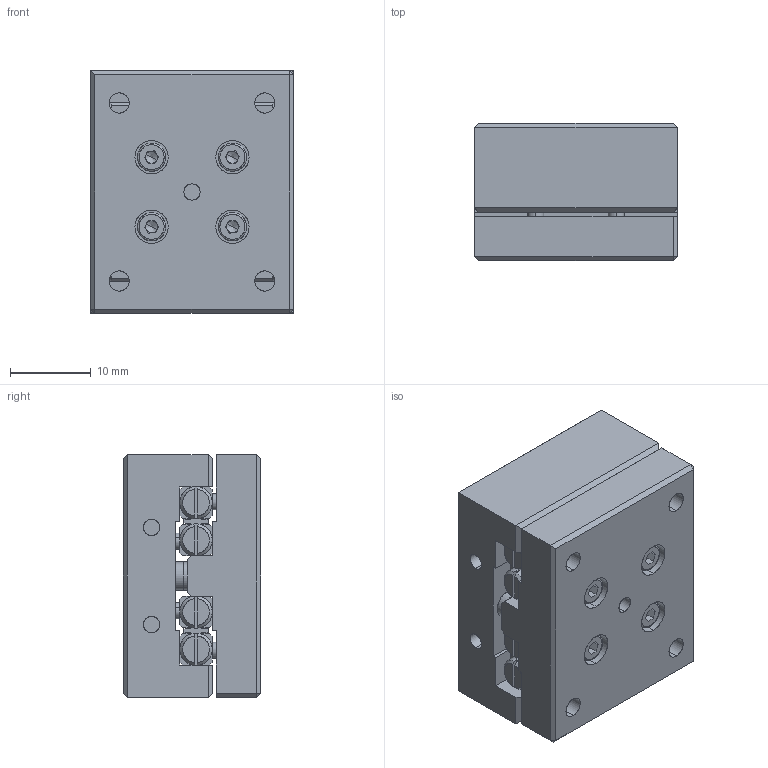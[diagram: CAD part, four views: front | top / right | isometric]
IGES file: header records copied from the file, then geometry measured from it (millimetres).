
Start section: SolidWorks IGES file using analytic representation for surfaces
Global section: file name: C:\Documents and Settings\IanO.IANOHOME\My Documents\Wix and Auto CAD Work\CAD Models\Parametric Models\Auto Models\L1020\L1020_IGES\L1020.030-025.igs; native system: SolidWorks 2009; preprocessor: SolidWorks 2009; author: IanO; date: 110922.161846; units: millimetre
Bounding box: 25 x 17 x 30 mm (x, y, z)
Surface area: 8868.9 mm2 (no closed solid volume)
Topology: 0 solids, 0 shells, 740 faces, 8568 edges, 8548 vertices
Faces by surface type: bspline 488, revolution 252
